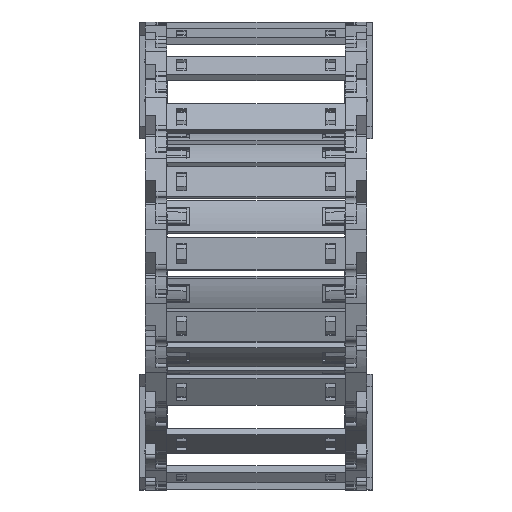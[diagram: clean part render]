
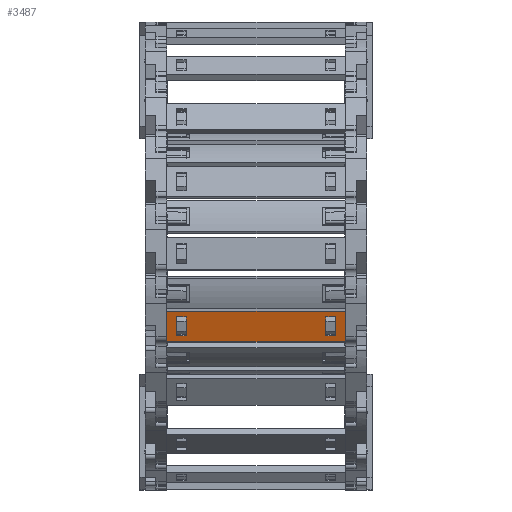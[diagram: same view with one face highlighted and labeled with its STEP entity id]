
A CAD part, top view. The second image highlights one B-rep face of the part: STEP entity #3487.
In plain terms, the highlighted planar face has unit normal (0, -0.302, 0.953) as drawn and (0, 0, -1) by its records, which use the part's own axes.
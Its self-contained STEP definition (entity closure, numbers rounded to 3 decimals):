
#2967=DIRECTION('',(-1.,0.,0.));
#2968=VECTOR('',#2967,18.);
#2969=CARTESIAN_POINT('',(9.,-75.25,0.));
#2970=LINE('',#2969,#2968);
#3005=DIRECTION('',(0.,1.,0.));
#3006=VECTOR('',#3005,5.56);
#3007=CARTESIAN_POINT('',(-5.55,14.2,0.));
#3008=LINE('',#3007,#3006);
#3009=DIRECTION('',(1.,0.,0.));
#3010=VECTOR('',#3009,11.1);
#3011=CARTESIAN_POINT('',(-5.55,19.76,0.));
#3012=LINE('',#3011,#3010);
#3013=DIRECTION('',(0.,-1.,0.));
#3014=VECTOR('',#3013,5.56);
#3015=CARTESIAN_POINT('',(5.55,19.76,0.));
#3016=LINE('',#3015,#3014);
#3017=DIRECTION('',(-1.,0.,0.));
#3018=VECTOR('',#3017,11.1);
#3019=CARTESIAN_POINT('',(5.55,14.2,0.));
#3020=LINE('',#3019,#3018);
#3025=DIRECTION('',(1.,0.,0.));
#3026=VECTOR('',#3025,18.);
#3027=CARTESIAN_POINT('',(-9.,25.25,0.));
#3028=LINE('',#3027,#3026);
#3059=DIRECTION('',(0.,1.,0.));
#3060=VECTOR('',#3059,100.5);
#3061=CARTESIAN_POINT('',(-9.,-75.25,0.));
#3062=LINE('',#3061,#3060);
#3188=DIRECTION('',(0.,-1.,0.));
#3189=VECTOR('',#3188,100.5);
#3190=CARTESIAN_POINT('',(9.,25.25,0.));
#3191=LINE('',#3190,#3189);
#3253=DIRECTION('',(0.,-1.,0.));
#3254=VECTOR('',#3253,5.56);
#3255=CARTESIAN_POINT('',(-5.55,-64.2,0.));
#3256=LINE('',#3255,#3254);
#3265=DIRECTION('',(0.,1.,0.));
#3266=VECTOR('',#3265,5.56);
#3267=CARTESIAN_POINT('',(5.55,-69.76,0.));
#3268=LINE('',#3267,#3266);
#3277=DIRECTION('',(1.,0.,0.));
#3278=VECTOR('',#3277,11.1);
#3279=CARTESIAN_POINT('',(-5.55,-69.76,0.));
#3280=LINE('',#3279,#3278);
#3289=DIRECTION('',(-1.,0.,0.));
#3290=VECTOR('',#3289,11.1);
#3291=CARTESIAN_POINT('',(5.55,-64.2,0.));
#3292=LINE('',#3291,#3290);
#3341=CARTESIAN_POINT('',(9.,-75.25,0.));
#3342=CARTESIAN_POINT('',(-9.,-75.25,0.));
#3343=VERTEX_POINT('',#3341);
#3344=VERTEX_POINT('',#3342);
#3365=CARTESIAN_POINT('',(-5.55,-64.2,0.));
#3366=CARTESIAN_POINT('',(-5.55,-69.76,0.));
#3367=VERTEX_POINT('',#3365);
#3368=VERTEX_POINT('',#3366);
#3369=CARTESIAN_POINT('',(5.55,-64.2,0.));
#3370=VERTEX_POINT('',#3369);
#3371=CARTESIAN_POINT('',(5.55,-69.76,0.));
#3372=VERTEX_POINT('',#3371);
#3397=CARTESIAN_POINT('',(-9.,25.25,0.));
#3398=CARTESIAN_POINT('',(9.,25.25,0.));
#3399=VERTEX_POINT('',#3397);
#3400=VERTEX_POINT('',#3398);
#3401=CARTESIAN_POINT('',(-5.55,14.2,0.));
#3402=CARTESIAN_POINT('',(-5.55,19.76,0.));
#3403=VERTEX_POINT('',#3401);
#3404=VERTEX_POINT('',#3402);
#3405=CARTESIAN_POINT('',(5.55,19.76,0.));
#3406=VERTEX_POINT('',#3405);
#3407=CARTESIAN_POINT('',(5.55,14.2,0.));
#3408=VERTEX_POINT('',#3407);
#3453=CARTESIAN_POINT('',(8.,-75.25,0.));
#3454=DIRECTION('',(0.,0.,-1.));
#3455=DIRECTION('',(-1.,0.,0.));
#3456=AXIS2_PLACEMENT_3D('',#3453,#3454,#3455);
#3457=PLANE('',#3456);
#3459=ORIENTED_EDGE('',*,*,#3458,.F.);
#3461=ORIENTED_EDGE('',*,*,#3460,.F.);
#3462=ORIENTED_EDGE('',*,*,#3426,.F.);
#3464=ORIENTED_EDGE('',*,*,#3463,.F.);
#3465=EDGE_LOOP('',(#3459,#3461,#3462,#3464));
#3466=FACE_OUTER_BOUND('',#3465,.F.);
#3468=ORIENTED_EDGE('',*,*,#3467,.T.);
#3470=ORIENTED_EDGE('',*,*,#3469,.T.);
#3472=ORIENTED_EDGE('',*,*,#3471,.T.);
#3474=ORIENTED_EDGE('',*,*,#3473,.T.);
#3475=EDGE_LOOP('',(#3468,#3470,#3472,#3474));
#3476=FACE_BOUND('',#3475,.F.);
#3478=ORIENTED_EDGE('',*,*,#3477,.F.);
#3480=ORIENTED_EDGE('',*,*,#3479,.F.);
#3482=ORIENTED_EDGE('',*,*,#3481,.F.);
#3484=ORIENTED_EDGE('',*,*,#3483,.F.);
#3485=EDGE_LOOP('',(#3478,#3480,#3482,#3484));
#3486=FACE_BOUND('',#3485,.F.);
#3487=ADVANCED_FACE('',(#3466,#3476,#3486),#3457,.T.);
#3426=EDGE_CURVE('',#3343,#3344,#2970,.T.);
#3458=EDGE_CURVE('',#3399,#3400,#3028,.T.);
#3460=EDGE_CURVE('',#3344,#3399,#3062,.T.);
#3463=EDGE_CURVE('',#3400,#3343,#3191,.T.);
#3467=EDGE_CURVE('',#3403,#3404,#3008,.T.);
#3469=EDGE_CURVE('',#3404,#3406,#3012,.T.);
#3471=EDGE_CURVE('',#3406,#3408,#3016,.T.);
#3473=EDGE_CURVE('',#3408,#3403,#3020,.T.);
#3477=EDGE_CURVE('',#3367,#3368,#3256,.T.);
#3479=EDGE_CURVE('',#3370,#3367,#3292,.T.);
#3481=EDGE_CURVE('',#3372,#3370,#3268,.T.);
#3483=EDGE_CURVE('',#3368,#3372,#3280,.T.);
